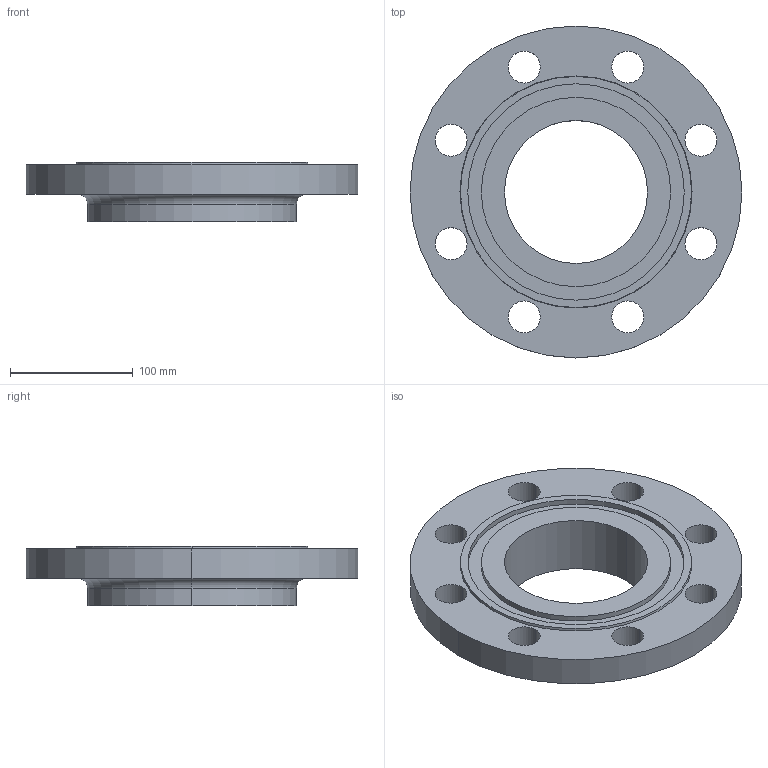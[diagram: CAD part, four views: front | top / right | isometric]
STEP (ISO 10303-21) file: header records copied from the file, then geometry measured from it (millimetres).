
FILE_DESCRIPTION (( 'STEP AP214' ), '1' );
FILE_NAME ('PN40 DN125 Type 13 - Type D Face.STEP', '2019-01-02T02:08:59', ( '' ), ( '' ), 'SwSTEP 2.0', 'SolidWorks 2019', '' );
FILE_SCHEMA (( 'AUTOMOTIVE_DESIGN' ));
Length unit declared in the file: millimetre
Products named in the file (1): PN40 DN125 Type 13 - Type D Face
Bounding box: 270 x 270 x 48 mm (x, y, z)
Volume: 1298850.3 mm3; surface area: 153942 mm2
Topology: 1 solids, 1 shells, 36 faces, 88 edges, 58 vertices
Faces by surface type: cylinder 26, plane 6, torus 2, cone 2
Entity records: 1166 total; most frequent: DIRECTION 222, CARTESIAN_POINT 183, ORIENTED_EDGE 176, AXIS2_PLACEMENT_3D 97, EDGE_CURVE 88, CIRCLE 60, EDGE_LOOP 58, VERTEX_POINT 58
